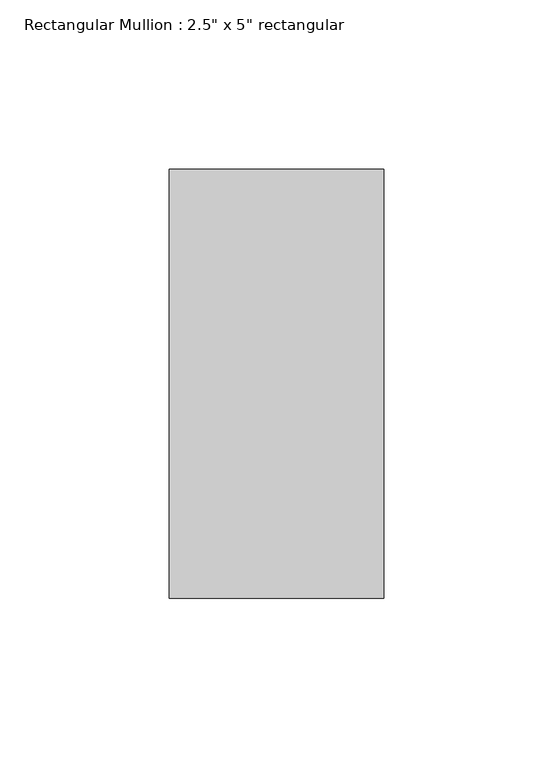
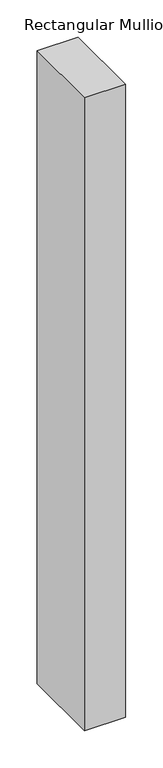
"""IFC4 building model written with IfcOpenShell, lengths in millimetres: member geometry."""

from ifc_helpers import new_model, si_unit, frame, origin, place, context, project, spatial, polyline, outline, extrude, source, transform, mapped, element, save


def member_6ef8dc49(model_context):
    return source(origin(), model_context, "Body", "SweptSolid", [
        extrude(outline(polyline([(0.0, 63.5), (0.0, -63.5), (-63.5, -63.5), (-63.5, 63.5), (0.0, 63.5)])), frame((0.0, 0.0, -1035.05), z_axis=(0.0, 0.0, 1.0), x_axis=(1.0, 0.0, 0.0)), (0.0, 0.0, 1.0), 1035.05),
    ])


if __name__ == "__main__":
    model = new_model("IFC4")
    model_context = context("Model", 3, world=origin())
    ifc_project = project(units=[si_unit("LENGTHUNIT", "METRE", prefix="MILLI")], contexts=[model_context])
    site = spatial("IfcSite", under=ifc_project)
    building = spatial("IfcBuilding", under=site)
    placement = place(None, origin())
    member_shape = member_6ef8dc49(model_context)
    element("IfcMember", 1, ObjectType="Rectangular Mullion : 2.5\" x 5\" rectangular", at=placement, inside=building, context=model_context, shape_type="MappedRepresentation", body=[
        mapped(member_shape, transform((0.0, 0.0, 0.0), x_axis=(1.0, 0.0, 0.0), y_axis=(0.0, 1.0, 0.0), z_axis=(0.0, 0.0, 1.0))),
    ])
    save(model, "model.ifc")
